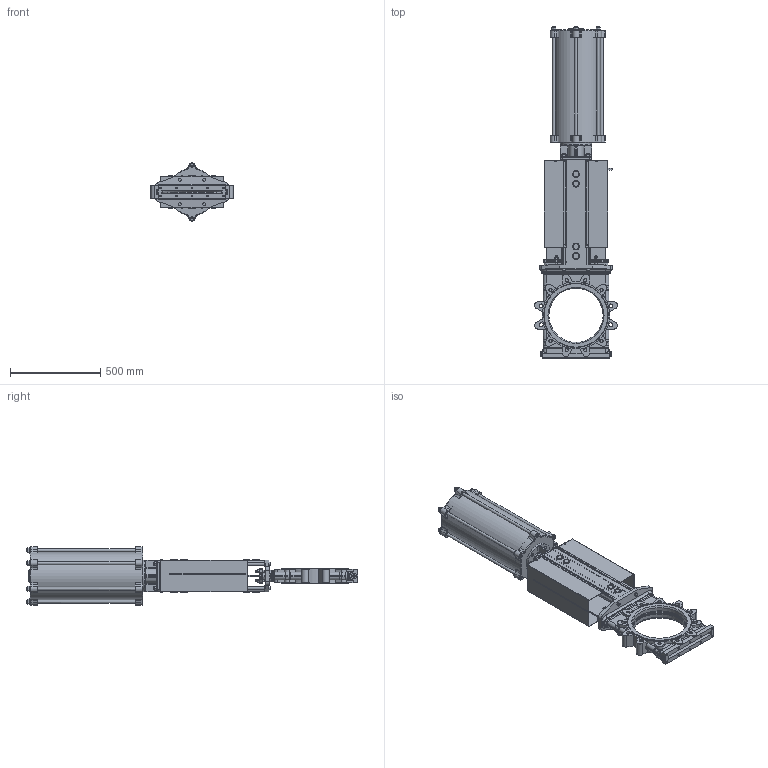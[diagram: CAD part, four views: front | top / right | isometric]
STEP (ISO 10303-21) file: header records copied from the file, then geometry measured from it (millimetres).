
FILE_DESCRIPTION(/* description */ (''),/* implementation_level */ '2;1');
FILE_NAME(/* name */ 'F:\Emir\3D-block special\SLV\SLV-DN300-PN10-FRSC250-400.stp',/* time_stamp */ '2018-09-03T11:52:53+02:00',/* author */ ('emimus'),/* organization */ (''),/* preprocessor_version */ 'ST-DEVELOPER v17',/* originating_system */ 'Autodesk Inventor 2018',/* authorisation */ '');
FILE_SCHEMA (('CONFIG_CONTROL_DESIGN'));
Products named in the file (1): SLV-DN300-PN10-FRSC250-400_Sat
Bounding box: 457.28 x 1837 x 322 mm (x, y, z)
Volume: 21760127.8 mm3; surface area: 5225428 mm2
Topology: 1 solids, 1 shells, 2837 faces, 7268 edges, 4556 vertices
Faces by surface type: plane 1086, cylinder 797, cone 304, torus 299, bspline 231, sphere 120
Full cylindrical faces by diameter (mm): 3.5 x8, 3.6 x2, 4.2 x16, 4.917 x20, 6.4 x1, 6.647 x4, 7 x1, 7.5 x4, 8.376 x4, 8.5 x10, 9.5 x2, 10.106 x2, 12 x17, 12.5 x6, 13 x10, 13.835 x4, 14 x7, 15 x4, 16 x24, 17 x14, 17.5 x22, 18 x1, 18.2 x4, 18.5 x2, 18.631 x2, 24 x12, 25 x5, 25.5 x1, 26 x2, 26.091 x2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
Entity records: 103937 total; most frequent: CARTESIAN_POINT 34963, DIRECTION 15059, ORIENTED_EDGE 14400, EDGE_CURVE 7200, AXIS2_PLACEMENT_3D 6209, VERTEX_POINT 4556, CIRCLE 3406, EDGE_LOOP 3194
